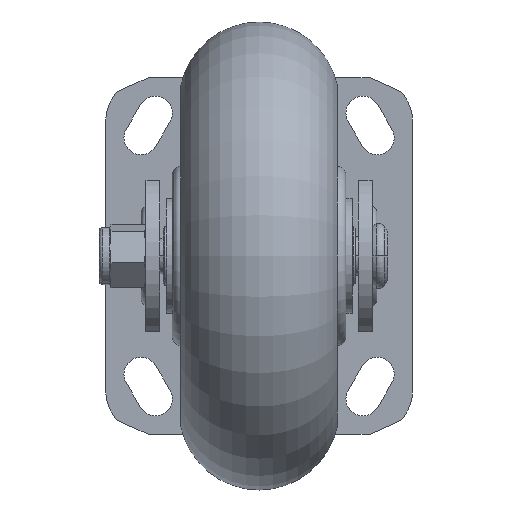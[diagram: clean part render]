
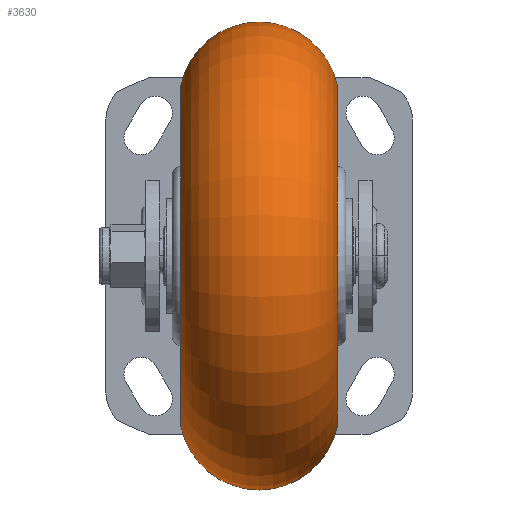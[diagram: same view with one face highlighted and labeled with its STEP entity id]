
A CAD part, front view. The second image highlights one B-rep face of the part: STEP entity #3630.
In plain terms, the highlighted toroidal (fillet/blend) face has major radius 49.7 mm and minor radius 25.8 mm.
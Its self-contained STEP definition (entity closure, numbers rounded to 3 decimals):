
#9 = DIRECTION ( 'NONE',  ( 0., 0., 1. ) ) ;
#76 = CARTESIAN_POINT ( 'NONE',  ( 25.25, -113., -55. ) ) ;
#206 = DIRECTION ( 'NONE',  ( 1., 0., 0. ) ) ;
#357 = AXIS2_PLACEMENT_3D ( 'NONE', #1593, #6359, #3993 ) ;
#591 = DIRECTION ( 'NONE',  ( -1., 0., 0. ) ) ;
#1157 = CARTESIAN_POINT ( 'NONE',  ( -25.25, -113., 0. ) ) ;
#1419 = EDGE_CURVE ( 'NONE', #4066, #9173, #1864, .T. ) ;
#1593 = CARTESIAN_POINT ( 'NONE',  ( 0., -113., 49.7 ) ) ;
#1631 = DIRECTION ( 'NONE',  ( 0., 1., 0. ) ) ;
#1864 = CIRCLE ( 'NONE', #357, 25.8 ) ;
#1867 = ORIENTED_EDGE ( 'NONE', *, *, #6773, .F. ) ;
#2409 = CIRCLE ( 'NONE', #7426, 25.8 ) ;
#2872 = EDGE_LOOP ( 'NONE', ( #6390, #4551, #10324, #1867 ) ) ;
#3120 = AXIS2_PLACEMENT_3D ( 'NONE', #1157, #4336, #5187 ) ;
#3302 = EDGE_CURVE ( 'NONE', #4066, #5871, #10143, .T. ) ;
#3630 = ADVANCED_FACE ( 'NONE', ( #4399 ), #9795, .T. ) ;
#3993 = DIRECTION ( 'NONE',  ( 0., 0., -1. ) ) ;
#4066 = VERTEX_POINT ( 'NONE', #7576 ) ;
#4336 = DIRECTION ( 'NONE',  ( -1., 0., 0. ) ) ;
#4399 = FACE_OUTER_BOUND ( 'NONE', #2872, .T. ) ;
#4430 = AXIS2_PLACEMENT_3D ( 'NONE', #10021, #206, #8385 ) ;
#4551 = ORIENTED_EDGE ( 'NONE', *, *, #3302, .F. ) ;
#4998 = VERTEX_POINT ( 'NONE', #7919 ) ;
#5187 = DIRECTION ( 'NONE',  ( 0., 0., -1. ) ) ;
#5269 = AXIS2_PLACEMENT_3D ( 'NONE', #8510, #591, #8453 ) ;
#5871 = VERTEX_POINT ( 'NONE', #76 ) ;
#6359 = DIRECTION ( 'NONE',  ( 0., -1., 0. ) ) ;
#6390 = ORIENTED_EDGE ( 'NONE', *, *, #9972, .F. ) ;
#6773 = EDGE_CURVE ( 'NONE', #4998, #9173, #8657, .T. ) ;
#7426 = AXIS2_PLACEMENT_3D ( 'NONE', #9701, #1631, #9 ) ;
#7576 = CARTESIAN_POINT ( 'NONE',  ( 25.25, -113., 55. ) ) ;
#7919 = CARTESIAN_POINT ( 'NONE',  ( -25.25, -113., -55. ) ) ;
#8385 = DIRECTION ( 'NONE',  ( 0., 0., 1. ) ) ;
#8453 = DIRECTION ( 'NONE',  ( 0., 0., 1. ) ) ;
#8510 = CARTESIAN_POINT ( 'NONE',  ( 0., -113., 0. ) ) ;
#8657 = CIRCLE ( 'NONE', #3120, 55. ) ;
#9173 = VERTEX_POINT ( 'NONE', #9375 ) ;
#9375 = CARTESIAN_POINT ( 'NONE',  ( -25.25, -113., 55. ) ) ;
#9701 = CARTESIAN_POINT ( 'NONE',  ( 0., -113., -49.7 ) ) ;
#9795 = TOROIDAL_SURFACE ( 'NONE', #5269, 49.7, 25.8 ) ;
#9972 = EDGE_CURVE ( 'NONE', #5871, #4998, #2409, .T. ) ;
#10021 = CARTESIAN_POINT ( 'NONE',  ( 25.25, -113., 0. ) ) ;
#10143 = CIRCLE ( 'NONE', #4430, 55. ) ;
#10324 = ORIENTED_EDGE ( 'NONE', *, *, #1419, .T. ) ;
